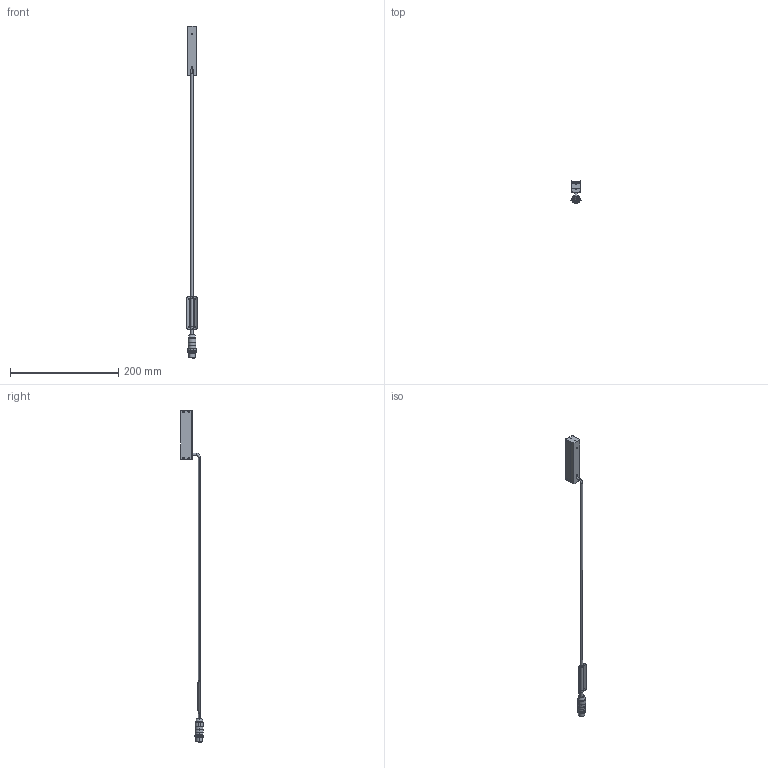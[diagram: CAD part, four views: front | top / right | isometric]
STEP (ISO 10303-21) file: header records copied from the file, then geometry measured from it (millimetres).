
FILE_DESCRIPTION (( 'STEP AP203' ), '1' );
FILE_NAME ('CV-BA-82X15R-M12_A21807A0100801.STEP', '2024-04-26T07:45:13', ( '' ), ( '' ), 'SwSTEP 2.0', 'SolidWorks 2023', '' );
FILE_SCHEMA (( 'CONFIG_CONTROL_DESIGN' ));
Length unit declared in the file: millimetre
Products named in the file (1): CV-BA-82X15R-M12_A21807A0100801
Bounding box: 20 x 41.65 x 613.85 mm (x, y, z)
Volume: 32351.7 mm3; surface area: 27680.5 mm2
Topology: 2 solids, 10 shells, 2172 faces, 5389 edges, 3442 vertices
Faces by surface type: plane 1155, cylinder 582, cone 164, bspline 149, sphere 120, torus 2
Entity records: 68612 total; most frequent: CARTESIAN_POINT 17513, ORIENTED_EDGE 10474, DIRECTION 10372, EDGE_CURVE 5237, AXIS2_PLACEMENT_3D 3723, VERTEX_POINT 3442, LINE 2926, VECTOR 2926
